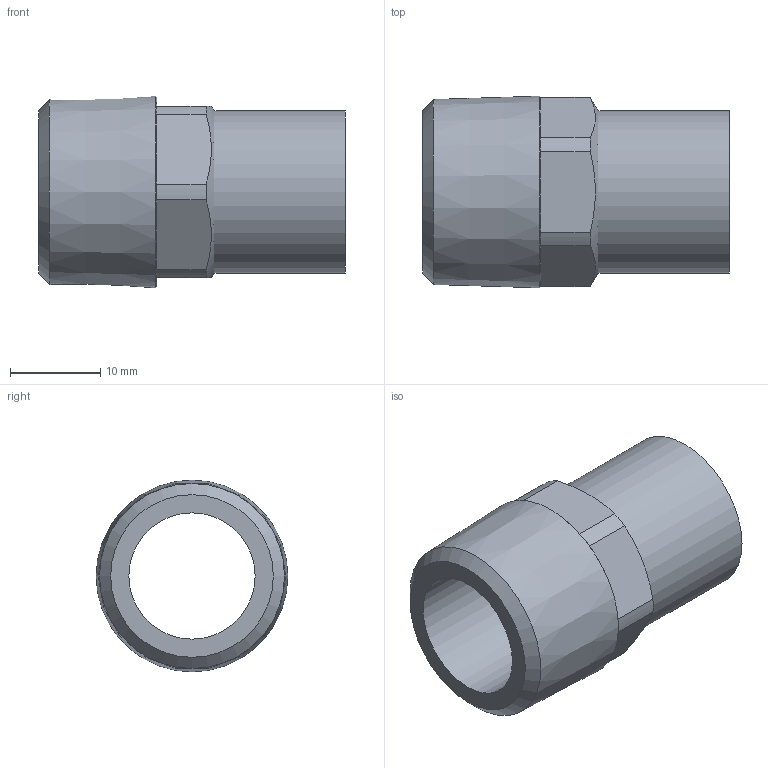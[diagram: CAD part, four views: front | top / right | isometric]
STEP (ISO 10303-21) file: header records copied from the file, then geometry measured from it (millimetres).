
FILE_DESCRIPTION((''),'2;1');
FILE_NAME('G:\Engineering\Public\Pajchrowski\projekty\8000 models\pressfitting\14280_18-12(1).stp','2008-11-04T11:48:24',('pajchrowski'),(''),'Autodesk Inventor 2009','Autodesk Inventor 2009','');
FILE_SCHEMA(('AUTOMOTIVE_DESIGN { 1 0 10303 214 1 1 1 1 }'));
Length unit declared in the file: millimetre
Products named in the file (1): 14280_18-34(1)
Bounding box: 34 x 21.25 x 21.25 mm (x, y, z)
Volume: 4847.2 mm3; surface area: 3883.7 mm2
Topology: 1 solids, 1 shells, 26 faces, 57 edges, 33 vertices
Faces by surface type: plane 14, cylinder 8, cone 4
Full cylindrical faces by diameter (mm): 14 x1, 18 x1
Entity records: 682 total; most frequent: DIRECTION 122, CARTESIAN_POINT 119, ORIENTED_EDGE 98, AXIS2_PLACEMENT_3D 52, EDGE_CURVE 49, EDGE_LOOP 34, VERTEX_POINT 31, FACE_OUTER_BOUND 26
